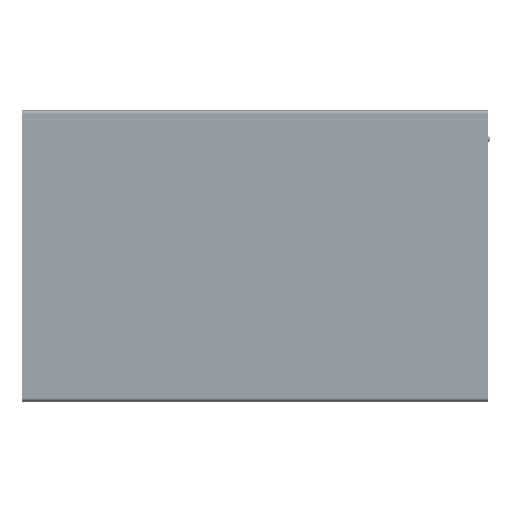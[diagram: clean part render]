
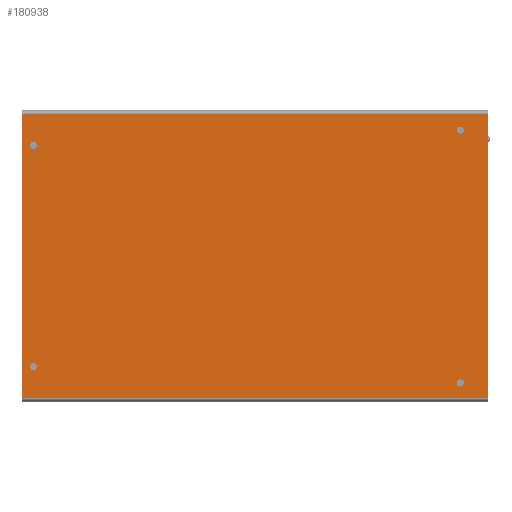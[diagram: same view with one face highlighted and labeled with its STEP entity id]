
A CAD part, front view. The second image highlights one B-rep face of the part: STEP entity #180938.
In plain terms, the highlighted planar face has unit normal (0, -1, 0).
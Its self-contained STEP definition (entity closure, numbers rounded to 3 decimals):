
#414 = DIRECTION ( 'NONE',  ( -1., 0., 0. ) ) ;
#2860 = VECTOR ( 'NONE', #68472, 1000. ) ;
#3525 = AXIS2_PLACEMENT_3D ( 'NONE', #26468, #172609, #40014 ) ;
#3600 = VERTEX_POINT ( 'NONE', #102431 ) ;
#6282 = VERTEX_POINT ( 'NONE', #132830 ) ;
#7547 = EDGE_CURVE ( 'NONE', #118748, #184855, #72647, .T. ) ;
#8683 = CARTESIAN_POINT ( 'NONE',  ( 62., -20., 101.6 ) ) ;
#10444 = EDGE_CURVE ( 'NONE', #6282, #3600, #150751, .T. ) ;
#12520 = CIRCLE ( 'NONE', #145429, 1.5 ) ;
#14083 = EDGE_CURVE ( 'NONE', #94806, #122594, #101563, .T. ) ;
#15027 = ORIENTED_EDGE ( 'NONE', *, *, #70498, .T. ) ;
#20738 = CARTESIAN_POINT ( 'NONE',  ( 48.3, -20., 98.1 ) ) ;
#20887 = CARTESIAN_POINT ( 'NONE',  ( 54.9, -20., -89.6 ) ) ;
#24011 = LINE ( 'NONE', #83025, #2860 ) ;
#26468 = CARTESIAN_POINT ( 'NONE',  ( -62., -20., 101.6 ) ) ;
#27588 = DIRECTION ( 'NONE',  ( 0., 1., 0. ) ) ;
#27608 = EDGE_CURVE ( 'NONE', #52322, #191070, #24011, .T. ) ;
#28311 = EDGE_LOOP ( 'NONE', ( #182031, #71987 ) ) ;
#31199 = EDGE_LOOP ( 'NONE', ( #191243, #177095 ) ) ;
#31520 = CARTESIAN_POINT ( 'NONE',  ( 62., -20., -101.6 ) ) ;
#35094 = CIRCLE ( 'NONE', #106258, 1.5 ) ;
#38655 = CARTESIAN_POINT ( 'NONE',  ( -62., -20., -101.6 ) ) ;
#40014 = DIRECTION ( 'NONE',  ( 1., 0., 0. ) ) ;
#40957 = FACE_BOUND ( 'NONE', #28311, .T. ) ;
#42988 = ORIENTED_EDGE ( 'NONE', *, *, #97517, .T. ) ;
#48052 = CARTESIAN_POINT ( 'NONE',  ( -55.3, -20., -91.1 ) ) ;
#52322 = VERTEX_POINT ( 'NONE', #8683 ) ;
#55914 = DIRECTION ( 'NONE',  ( 0., 1., 0. ) ) ;
#57215 = ORIENTED_EDGE ( 'NONE', *, *, #14083, .T. ) ;
#58499 = CARTESIAN_POINT ( 'NONE',  ( 48.3, -20., 96.6 ) ) ;
#61987 = LINE ( 'NONE', #90106, #177707 ) ;
#62322 = DIRECTION ( 'NONE',  ( 0., 1., 0. ) ) ;
#64399 = DIRECTION ( 'NONE',  ( 0., 1., 0. ) ) ;
#68472 = DIRECTION ( 'NONE',  ( 0., 0., -1. ) ) ;
#70498 = EDGE_CURVE ( 'NONE', #3600, #6282, #35094, .T. ) ;
#70553 = CARTESIAN_POINT ( 'NONE',  ( 48.3, -20., 96.6 ) ) ;
#71987 = ORIENTED_EDGE ( 'NONE', *, *, #84202, .T. ) ;
#72401 = CARTESIAN_POINT ( 'NONE',  ( -48.3, -20., 96.6 ) ) ;
#72647 = LINE ( 'NONE', #168344, #179147 ) ;
#72861 = CARTESIAN_POINT ( 'NONE',  ( -62., -20., -101.6 ) ) ;
#74485 = EDGE_LOOP ( 'NONE', ( #108327, #57215 ) ) ;
#74842 = VERTEX_POINT ( 'NONE', #20738 ) ;
#78356 = CARTESIAN_POINT ( 'NONE',  ( -55.3, -20., -89.6 ) ) ;
#81978 = EDGE_CURVE ( 'NONE', #74842, #156200, #157460, .T. ) ;
#83025 = CARTESIAN_POINT ( 'NONE',  ( 62., -20., 101.6 ) ) ;
#83438 = ORIENTED_EDGE ( 'NONE', *, *, #10444, .T. ) ;
#83581 = PLANE ( 'NONE',  #3525 ) ;
#84058 = DIRECTION ( 'NONE',  ( 0., 1., 0. ) ) ;
#84122 = DIRECTION ( 'NONE',  ( -1., 0., 0. ) ) ;
#84202 = EDGE_CURVE ( 'NONE', #156200, #74842, #12520, .T. ) ;
#84519 = FACE_BOUND ( 'NONE', #74485, .T. ) ;
#84685 = CIRCLE ( 'NONE', #100163, 1.5 ) ;
#85104 = EDGE_LOOP ( 'NONE', ( #42988, #130351, #152210, #189305 ) ) ;
#85506 = AXIS2_PLACEMENT_3D ( 'NONE', #149482, #62322, #105912 ) ;
#85814 = AXIS2_PLACEMENT_3D ( 'NONE', #158295, #173757, #176617 ) ;
#86100 = CARTESIAN_POINT ( 'NONE',  ( -48.3, -20., 98.1 ) ) ;
#90106 = CARTESIAN_POINT ( 'NONE',  ( -62., -20., 101.6 ) ) ;
#94806 = VERTEX_POINT ( 'NONE', #48052 ) ;
#97517 = EDGE_CURVE ( 'NONE', #184855, #191070, #188610, .T. ) ;
#100000 = FACE_BOUND ( 'NONE', #174239, .T. ) ;
#100163 = AXIS2_PLACEMENT_3D ( 'NONE', #72401, #84058, #175971 ) ;
#101416 = CARTESIAN_POINT ( 'NONE',  ( -55.3, -20., -89.6 ) ) ;
#101563 = CIRCLE ( 'NONE', #151007, 1.5 ) ;
#101773 = AXIS2_PLACEMENT_3D ( 'NONE', #70553, #129617, #84122 ) ;
#102431 = CARTESIAN_POINT ( 'NONE',  ( 54.9, -20., -88.1 ) ) ;
#105912 = DIRECTION ( 'NONE',  ( -1., 0., 0. ) ) ;
#106258 = AXIS2_PLACEMENT_3D ( 'NONE', #20887, #64399, #138939 ) ;
#108327 = ORIENTED_EDGE ( 'NONE', *, *, #186463, .T. ) ;
#110508 = CARTESIAN_POINT ( 'NONE',  ( -62., -20., 101.6 ) ) ;
#113580 = FACE_OUTER_BOUND ( 'NONE', #85104, .T. ) ;
#117036 = CARTESIAN_POINT ( 'NONE',  ( -48.3, -20., 95.1 ) ) ;
#117107 = VERTEX_POINT ( 'NONE', #86100 ) ;
#118748 = VERTEX_POINT ( 'NONE', #110508 ) ;
#118823 = CARTESIAN_POINT ( 'NONE',  ( 48.3, -20., 95.1 ) ) ;
#122594 = VERTEX_POINT ( 'NONE', #157732 ) ;
#125932 = VERTEX_POINT ( 'NONE', #117036 ) ;
#127688 = DIRECTION ( 'NONE',  ( 1., 0., 0. ) ) ;
#129148 = VECTOR ( 'NONE', #127688, 1000. ) ;
#129617 = DIRECTION ( 'NONE',  ( 0., 1., 0. ) ) ;
#130351 = ORIENTED_EDGE ( 'NONE', *, *, #27608, .F. ) ;
#132830 = CARTESIAN_POINT ( 'NONE',  ( 54.9, -20., -91.1 ) ) ;
#133282 = DIRECTION ( 'NONE',  ( -1., 0., 0. ) ) ;
#138939 = DIRECTION ( 'NONE',  ( -1., 0., 0. ) ) ;
#145429 = AXIS2_PLACEMENT_3D ( 'NONE', #58499, #27588, #414 ) ;
#149482 = CARTESIAN_POINT ( 'NONE',  ( -48.3, -20., 96.6 ) ) ;
#150020 = DIRECTION ( 'NONE',  ( 0., 0., -1. ) ) ;
#150751 = CIRCLE ( 'NONE', #85814, 1.5 ) ;
#151007 = AXIS2_PLACEMENT_3D ( 'NONE', #101416, #55914, #133282 ) ;
#152210 = ORIENTED_EDGE ( 'NONE', *, *, #168765, .F. ) ;
#156200 = VERTEX_POINT ( 'NONE', #118823 ) ;
#157460 = CIRCLE ( 'NONE', #101773, 1.5 ) ;
#157732 = CARTESIAN_POINT ( 'NONE',  ( -55.3, -20., -88.1 ) ) ;
#158295 = CARTESIAN_POINT ( 'NONE',  ( 54.9, -20., -89.6 ) ) ;
#159157 = CIRCLE ( 'NONE', #171595, 1.5 ) ;
#160931 = FACE_BOUND ( 'NONE', #31199, .T. ) ;
#165574 = DIRECTION ( 'NONE',  ( 1., 0., 0. ) ) ;
#168344 = CARTESIAN_POINT ( 'NONE',  ( -62., -20., 101.6 ) ) ;
#168765 = EDGE_CURVE ( 'NONE', #118748, #52322, #61987, .T. ) ;
#168956 = CIRCLE ( 'NONE', #85506, 1.5 ) ;
#171595 = AXIS2_PLACEMENT_3D ( 'NONE', #78356, #179041, #181891 ) ;
#172609 = DIRECTION ( 'NONE',  ( 0., 1., 0. ) ) ;
#173757 = DIRECTION ( 'NONE',  ( 0., 1., 0. ) ) ;
#174239 = EDGE_LOOP ( 'NONE', ( #15027, #83438 ) ) ;
#175971 = DIRECTION ( 'NONE',  ( -1., 0., 0. ) ) ;
#176617 = DIRECTION ( 'NONE',  ( -1., 0., 0. ) ) ;
#177095 = ORIENTED_EDGE ( 'NONE', *, *, #185579, .T. ) ;
#177707 = VECTOR ( 'NONE', #165574, 1000. ) ;
#179041 = DIRECTION ( 'NONE',  ( 0., 1., 0. ) ) ;
#179147 = VECTOR ( 'NONE', #150020, 1000. ) ;
#180938 = ADVANCED_FACE ( 'NONE', ( #100000, #84519, #40957, #160931, #113580 ), #83581, .F. ) ;
#181891 = DIRECTION ( 'NONE',  ( -1., 0., 0. ) ) ;
#182031 = ORIENTED_EDGE ( 'NONE', *, *, #81978, .T. ) ;
#184855 = VERTEX_POINT ( 'NONE', #72861 ) ;
#185579 = EDGE_CURVE ( 'NONE', #125932, #117107, #84685, .T. ) ;
#186463 = EDGE_CURVE ( 'NONE', #122594, #94806, #159157, .T. ) ;
#188610 = LINE ( 'NONE', #38655, #129148 ) ;
#189305 = ORIENTED_EDGE ( 'NONE', *, *, #7547, .T. ) ;
#190555 = EDGE_CURVE ( 'NONE', #117107, #125932, #168956, .T. ) ;
#191070 = VERTEX_POINT ( 'NONE', #31520 ) ;
#191243 = ORIENTED_EDGE ( 'NONE', *, *, #190555, .T. ) ;
